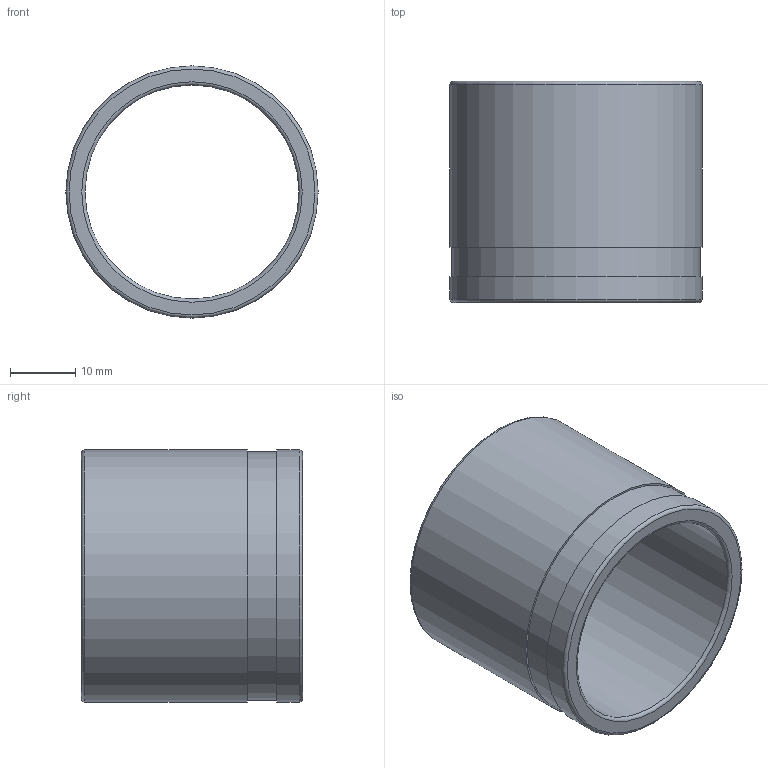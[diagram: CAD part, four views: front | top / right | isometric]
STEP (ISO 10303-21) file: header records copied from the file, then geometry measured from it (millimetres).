
FILE_DESCRIPTION(('STEP AP203'), '1');
FILE_NAME('ÂÐ.713143.004 - VTm.400.G.003244 - Ãèëüçà íàäâèæíàÿ', '2024-01-23T12:54:01', ('Boss'), (''), 'C3D Converter', 'C3D Toolkit', '');
FILE_SCHEMA(('CONFIG_CONTROL_DESIGN'));
Length unit declared in the file: millimetre
Products named in the file (1): ВР.713143.004
Bounding box: 38.8 x 34 x 38.8 mm (x, y, z)
Volume: 10642.3 mm3; surface area: 8253.3 mm2
Topology: 1 solids, 1 shells, 18 faces, 33 edges, 20 vertices
Faces by surface type: torus 6, cylinder 5, plane 5, cone 2
Full cylindrical faces by diameter (mm): 32.9 x2, 38.2 x1, 38.8 x2
Entity records: 431 total; most frequent: DIRECTION 82, CARTESIAN_POINT 61, ORIENTED_EDGE 44, AXIS2_PLACEMENT_3D 41, EDGE_LOOP 34, EDGE_CURVE 22, CIRCLE 22, VERTEX_POINT 20
